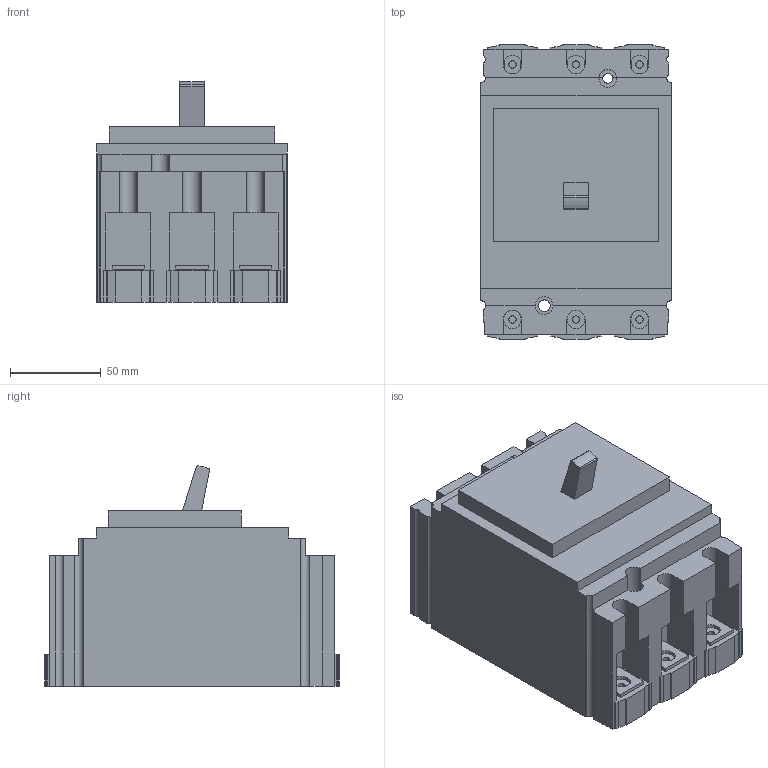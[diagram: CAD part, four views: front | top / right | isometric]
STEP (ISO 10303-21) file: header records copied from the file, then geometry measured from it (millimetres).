
FILE_DESCRIPTION (( 'STEP AP214' ), '1' );
FILE_NAME ('OptiMat D250.STEP', '2023-04-26T11:19:10', ( '' ), ( '' ), 'SwSTEP 2.0', 'SolidWorks 2018', '' );
FILE_SCHEMA (( 'AUTOMOTIVE_DESIGN' ));
Length unit declared in the file: millimetre
Products named in the file (1): OptiMat D250
Bounding box: 105 x 162.4 x 121.41 mm (x, y, z)
Volume: 1330204.1 mm3; surface area: 105692.8 mm2
Topology: 1 solids, 1 shells, 270 faces, 747 edges, 497 vertices
Faces by surface type: plane 197, cylinder 73
Entity records: 8644 total; most frequent: CARTESIAN_POINT 1515, ORIENTED_EDGE 1494, DIRECTION 1440, EDGE_CURVE 747, VECTOR 596, LINE 596, VERTEX_POINT 497, AXIS2_PLACEMENT_3D 422
